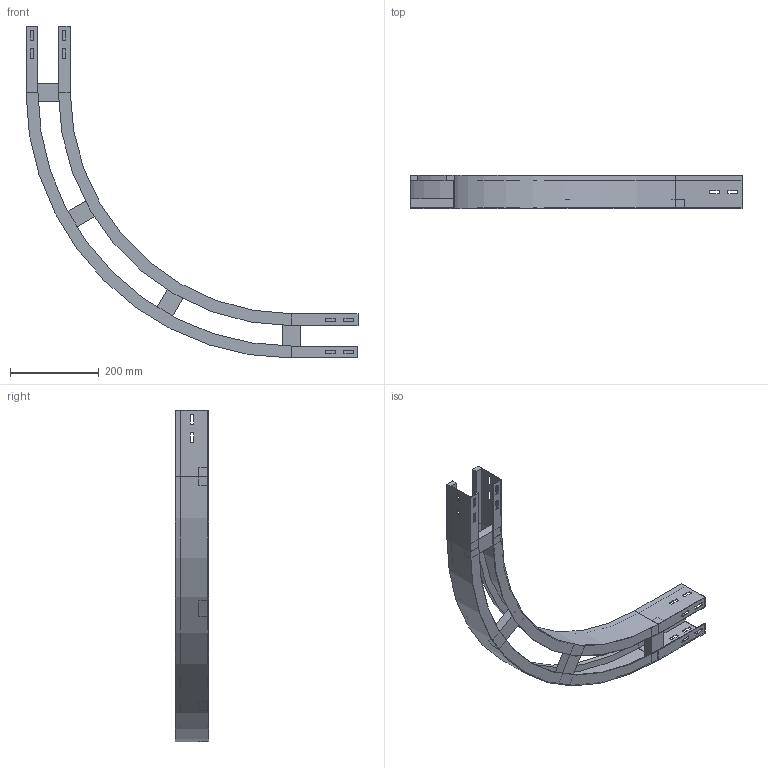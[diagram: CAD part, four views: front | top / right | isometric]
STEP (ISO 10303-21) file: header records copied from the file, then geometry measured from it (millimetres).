
FILE_DESCRIPTION (( 'STEP AP214' ), '1' );
FILE_NAME ('10B5C100.step', '2025-02-21T15:25:37', ( '' ), ( '' ), 'SwSTEP 2.0', 'SolidWorks 2023', '' );
FILE_SCHEMA (( 'AUTOMOTIVE_DESIGN' ));
Length unit declared in the file: millimetre
Products named in the file (4): 10B5C100; A2_LONGH.ESTERNO 90°_H75_R500+100; A2_LONGH.INTERNO 90°_H75_R500; TRAVERSINO_100
Assembly tree (6 placements, depth 2):
  10B5C100
    A2_LONGH.INTERNO 90°_H75_R500
    A2_LONGH.ESTERNO 90°_H75_R500+100
    TRAVERSINO_100  x4
Bounding box: 750 x 75 x 750 mm (x, y, z)
Volume: 1218639.4 mm3; surface area: 600818.7 mm2
Topology: 6 solids, 6 shells, 140 faces, 352 edges, 224 vertices
Faces by surface type: plane 132, cylinder 8
Entity records: 3829 total; most frequent: CARTESIAN_POINT 647, ORIENTED_EDGE 632, DIRECTION 594, EDGE_CURVE 316, LINE 300, VECTOR 300, VERTEX_POINT 200, EDGE_LOOP 154
